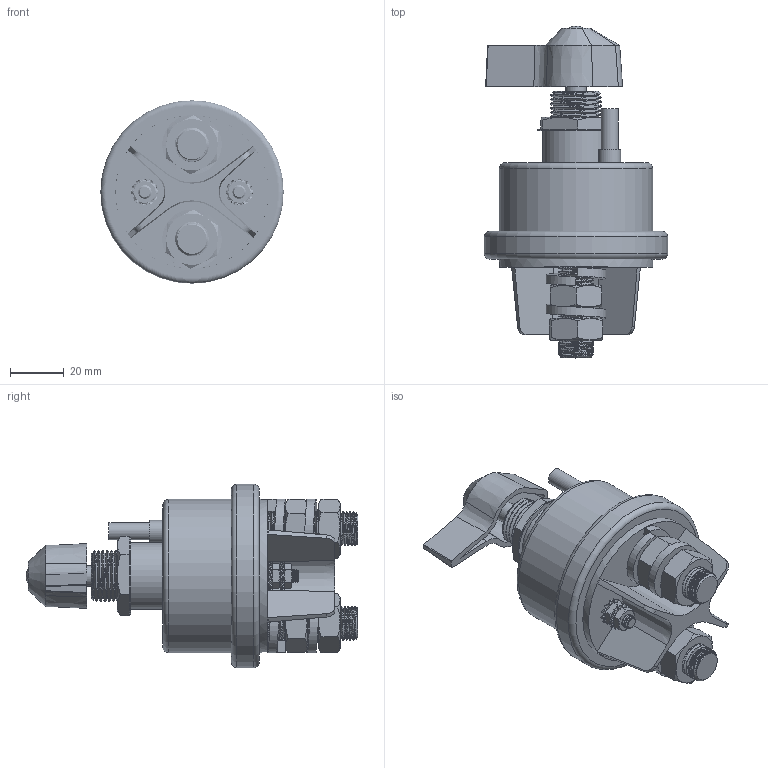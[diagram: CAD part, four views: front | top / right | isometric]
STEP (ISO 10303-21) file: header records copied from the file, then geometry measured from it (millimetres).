
FILE_DESCRIPTION(/* description */ (''),/* implementation_level */ '2;1');
FILE_NAME(/* name */ 'C:\Users\Hani\Desktop\work\HDB2-2A-3-A1\HDB2-2A-3-A1.stp',/* time_stamp */ '2020-11-11T20:10:58-08:00',/* author */ ('Hani'),/* organization */ (''),/* preprocessor_version */ 'ST-DEVELOPER v17',/* originating_system */ 'Autodesk Inventor 2019',/* authorisation */ '');
FILE_SCHEMA (('AUTOMOTIVE_DESIGN { 1 0 10303 214 3 1 1 }'));
Products named in the file (13): HDB2-2A-3-A1; HDB2-2A-3-A1_1; 0.75-16 THREADED; .75-16 NUT; .75 WASHER; handle; small_screw; M5X.8 Thread; .5-20 THREADED; .5-20 NUT; M5X.8 Nut; .5 LOCK WASHER; TOOTH LOCK WASHER
Assembly tree (26 placements, depth 2):
  HDB2-2A-3-A1
    HDB2-2A-3-A1_1
    0.75-16 THREADED
    .75-16 NUT
    .75 WASHER
    handle
    small_screw
    M5X.8 Thread  x2
    .5-20 THREADED  x2
    .5-20 NUT  x4
    M5X.8 Nut  x4
    .5 LOCK WASHER  x4
    TOOTH LOCK WASHER  x4
Bounding box: 68 x 123.05 x 68 mm (x, y, z)
Volume: 160244.9 mm3; surface area: 52456.5 mm2
Topology: 26 solids, 26 shells, 1347 faces, 3649 edges, 2361 vertices
Faces by surface type: cylinder 605, plane 311, bspline 239, cone 184, torus 7, sphere 1
Full cylindrical faces by diameter (mm): 2.02 x36, 2.261 x1, 2.845 x37, 3.961 x32, 4.134 x2, 5 x34, 5.3 x4, 6.3 x1, 7.62 x1, 8.2 x1, 11.05 x94, 11.328 x2, 12.7 x96, 16.988 x33, 19.05 x2, 20.637 x1, 24.85 x1, 28.575 x1, 56.8 x2, 68 x1
Entity records: 53229 total; most frequent: CARTESIAN_POINT 37273, ORIENTED_EDGE 3826, DIRECTION 2525, EDGE_CURVE 1913, VERTEX_POINT 1260, AXIS2_PLACEMENT_3D 912, EDGE_LOOP 713, LINE 701
